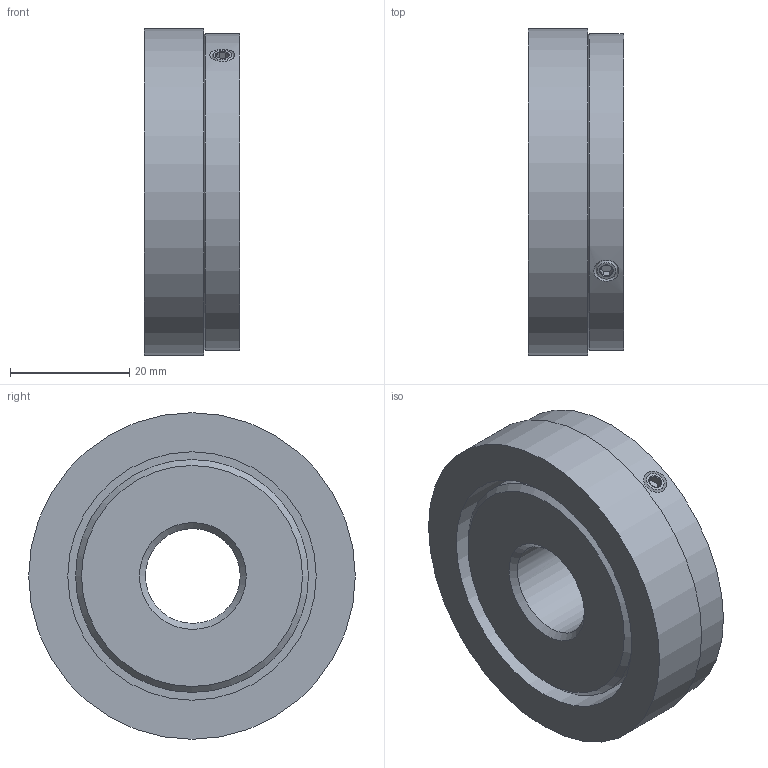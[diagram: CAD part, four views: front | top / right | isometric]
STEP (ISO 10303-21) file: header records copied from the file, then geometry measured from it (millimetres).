
FILE_DESCRIPTION (( 'STEP AP203' ), '1' );
FILE_NAME ('8.RI50.055.1587.112.STEP', '2013-07-17T13:28:08', ( 'Hodot' ), ( '' ), 'SwSTEP 2.0', 'SolidWorks 2012', '' );
FILE_SCHEMA (( 'CONFIG_CONTROL_DESIGN' ));
Length unit declared in the file: millimetre
Products named in the file (1): 8.RI50.055.1587.112
Bounding box: 16 x 54.7 x 54.7 mm (x, y, z)
Volume: 30886.3 mm3; surface area: 12335.5 mm2
Topology: 4 solids, 4 shells, 54 faces, 104 edges, 60 vertices
Faces by surface type: cone 23, plane 22, cylinder 9
Full cylindrical faces by diameter (mm): 3.3 x2, 4 x2, 15.875 x1, 39 x1, 41.6 x1, 53 x1, 54.7 x1
Entity records: 1517 total; most frequent: CARTESIAN_POINT 477, DIRECTION 206, ORIENTED_EDGE 152, AXIS2_PLACEMENT_3D 91, EDGE_LOOP 84, EDGE_CURVE 76, FACE_OUTER_BOUND 63, ADVANCED_FACE 54
